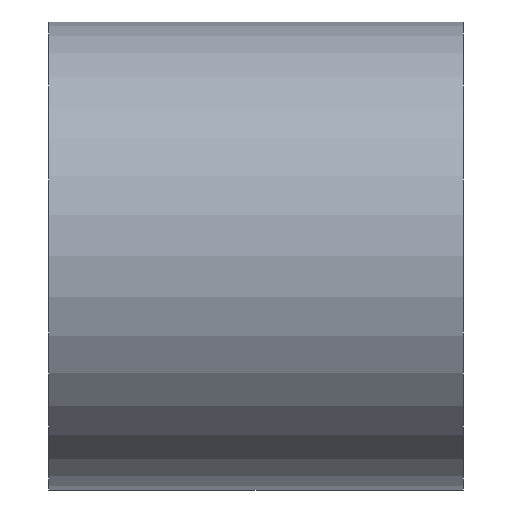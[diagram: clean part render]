
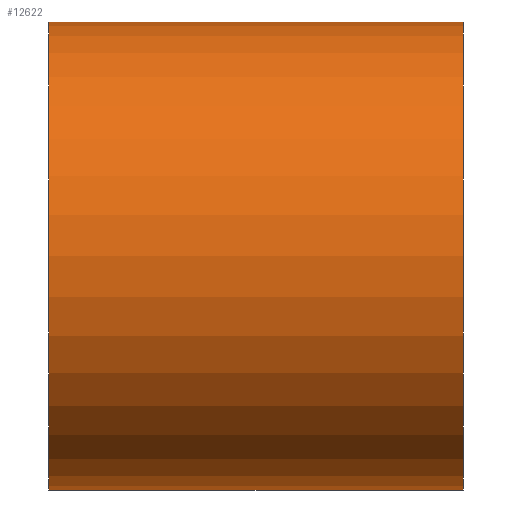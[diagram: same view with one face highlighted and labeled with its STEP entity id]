
A CAD part, left-side view. The second image highlights one B-rep face of the part: STEP entity #12622.
In plain terms, the highlighted cylindrical face has radius 200 mm (diameter 400 mm), a partial arc.
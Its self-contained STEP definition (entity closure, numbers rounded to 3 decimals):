
#1060 = DIRECTION ( 'NONE',  ( 0., -1., 0. ) ) ;
#2405 = CARTESIAN_POINT ( 'NONE',  ( 0., -141.3, 0. ) ) ;
#2774 = DIRECTION ( 'NONE',  ( 0., -1., 0. ) ) ;
#5928 = DIRECTION ( 'NONE',  ( 0., 0., -1. ) ) ;
#6802 = CARTESIAN_POINT ( 'NONE',  ( 0., 212.653, 200. ) ) ;
#7828 = EDGE_CURVE ( 'NONE', #17390, #30587, #11801, .T. ) ;
#8566 = CARTESIAN_POINT ( 'NONE',  ( 0., -141.3, -200. ) ) ;
#8969 = EDGE_CURVE ( 'NONE', #14342, #20148, #9082, .T. ) ;
#9082 = LINE ( 'NONE', #26118, #21127 ) ;
#9196 = DIRECTION ( 'NONE',  ( 0., -1., 0. ) ) ;
#10561 = EDGE_LOOP ( 'NONE', ( #30063, #29593, #16009, #18958 ) ) ;
#10984 = CIRCLE ( 'NONE', #38141, 200. ) ;
#11801 = LINE ( 'NONE', #15077, #30043 ) ;
#12622 = ADVANCED_FACE ( 'NONE', ( #16140 ), #22274, .T. ) ;
#14342 = VERTEX_POINT ( 'NONE', #6802 ) ;
#14915 = AXIS2_PLACEMENT_3D ( 'NONE', #2405, #31913, #32349 ) ;
#15077 = CARTESIAN_POINT ( 'NONE',  ( 0., 22.68, -200. ) ) ;
#15620 = CIRCLE ( 'NONE', #14915, 200. ) ;
#16009 = ORIENTED_EDGE ( 'NONE', *, *, #7828, .T. ) ;
#16140 = FACE_OUTER_BOUND ( 'NONE', #10561, .T. ) ;
#16315 = DIRECTION ( 'NONE',  ( 0., -1., 0. ) ) ;
#17105 = AXIS2_PLACEMENT_3D ( 'NONE', #39280, #2774, #26154 ) ;
#17390 = VERTEX_POINT ( 'NONE', #34347 ) ;
#18958 = ORIENTED_EDGE ( 'NONE', *, *, #41358, .F. ) ;
#19289 = CARTESIAN_POINT ( 'NONE',  ( 0., 212.653, 0. ) ) ;
#20148 = VERTEX_POINT ( 'NONE', #26305 ) ;
#21127 = VECTOR ( 'NONE', #16315, 1000. ) ;
#22274 = CYLINDRICAL_SURFACE ( 'NONE', #17105, 200. ) ;
#26118 = CARTESIAN_POINT ( 'NONE',  ( 0., 22.68, 200. ) ) ;
#26154 = DIRECTION ( 'NONE',  ( 0., 0., -1. ) ) ;
#26305 = CARTESIAN_POINT ( 'NONE',  ( 0., -141.3, 200. ) ) ;
#29593 = ORIENTED_EDGE ( 'NONE', *, *, #42868, .T. ) ;
#30043 = VECTOR ( 'NONE', #1060, 1000. ) ;
#30063 = ORIENTED_EDGE ( 'NONE', *, *, #8969, .F. ) ;
#30587 = VERTEX_POINT ( 'NONE', #8566 ) ;
#31913 = DIRECTION ( 'NONE',  ( 0., -1., 0. ) ) ;
#32349 = DIRECTION ( 'NONE',  ( 0., 0., -1. ) ) ;
#34347 = CARTESIAN_POINT ( 'NONE',  ( 0., 212.653, -200. ) ) ;
#38141 = AXIS2_PLACEMENT_3D ( 'NONE', #19289, #9196, #5928 ) ;
#39280 = CARTESIAN_POINT ( 'NONE',  ( 0., 22.68, 0. ) ) ;
#41358 = EDGE_CURVE ( 'NONE', #20148, #30587, #15620, .T. ) ;
#42868 = EDGE_CURVE ( 'NONE', #14342, #17390, #10984, .T. ) ;
